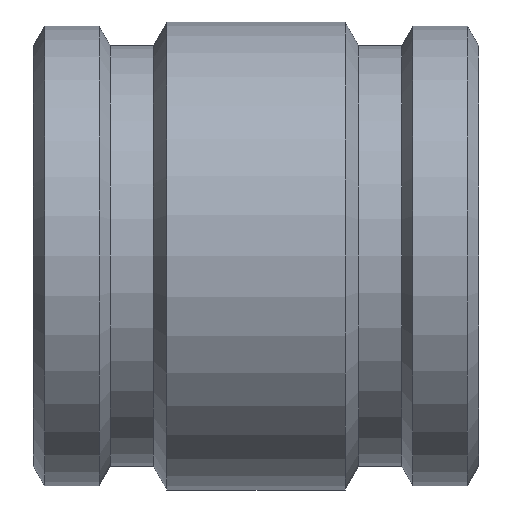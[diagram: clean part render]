
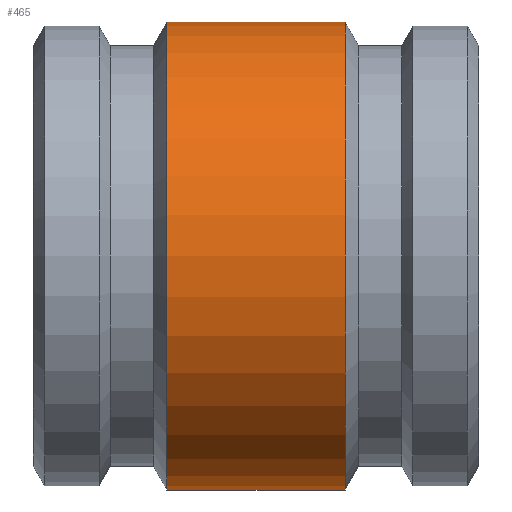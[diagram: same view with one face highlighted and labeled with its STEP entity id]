
A CAD part, front view. The second image highlights one B-rep face of the part: STEP entity #465.
In plain terms, the highlighted cylindrical face has radius 111.506 mm (diameter 223.012 mm), a full revolution.
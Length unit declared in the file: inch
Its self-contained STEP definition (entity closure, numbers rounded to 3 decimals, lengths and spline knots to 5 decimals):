
#51=CIRCLE('',#533,4.39);
#52=CIRCLE('',#534,4.39);
#53=CIRCLE('',#536,4.39);
#54=CIRCLE('',#537,4.39);
#74=CYLINDRICAL_SURFACE('',#535,4.39);
#105=FACE_OUTER_BOUND('',#139,.T.);
#139=EDGE_LOOP('',(#399,#400,#401,#402,#403,#404));
#163=LINE('',#1204,#183);
#183=VECTOR('',#661,4.39);
#231=VERTEX_POINT('',#1194);
#232=VERTEX_POINT('',#1195);
#233=VERTEX_POINT('',#1200);
#234=VERTEX_POINT('',#1201);
#290=EDGE_CURVE('',#231,#232,#51,.T.);
#291=EDGE_CURVE('',#232,#231,#52,.T.);
#293=EDGE_CURVE('',#233,#234,#53,.T.);
#294=EDGE_CURVE('',#234,#233,#54,.T.);
#295=EDGE_CURVE('',#234,#232,#163,.T.);
#399=ORIENTED_EDGE('',*,*,#293,.F.);
#400=ORIENTED_EDGE('',*,*,#294,.F.);
#401=ORIENTED_EDGE('',*,*,#295,.T.);
#402=ORIENTED_EDGE('',*,*,#291,.T.);
#403=ORIENTED_EDGE('',*,*,#290,.T.);
#404=ORIENTED_EDGE('',*,*,#295,.F.);
#465=ADVANCED_FACE('',(#105),#74,.T.);
#533=AXIS2_PLACEMENT_3D('',#1196,#650,#651);
#534=AXIS2_PLACEMENT_3D('',#1197,#652,#653);
#535=AXIS2_PLACEMENT_3D('',#1199,#655,#656);
#536=AXIS2_PLACEMENT_3D('',#1202,#657,#658);
#537=AXIS2_PLACEMENT_3D('',#1203,#659,#660);
#650=DIRECTION('center_axis',(1.,0.,0.));
#651=DIRECTION('ref_axis',(0.,0.,-1.));
#652=DIRECTION('center_axis',(1.,0.,0.));
#653=DIRECTION('ref_axis',(0.,0.,-1.));
#655=DIRECTION('center_axis',(1.,0.,0.));
#656=DIRECTION('ref_axis',(0.,1.,0.));
#657=DIRECTION('center_axis',(1.,0.,0.));
#658=DIRECTION('ref_axis',(0.,0.,-1.));
#659=DIRECTION('center_axis',(1.,0.,0.));
#660=DIRECTION('ref_axis',(0.,0.,-1.));
#661=DIRECTION('',(-1.,0.,0.));
#1194=CARTESIAN_POINT('',(-1.67,4.39,0.));
#1195=CARTESIAN_POINT('',(-1.67,-4.39,0.));
#1196=CARTESIAN_POINT('Origin',(-1.67,0.,0.));
#1197=CARTESIAN_POINT('Origin',(-1.67,0.,0.));
#1199=CARTESIAN_POINT('Origin',(0.,0.,0.));
#1200=CARTESIAN_POINT('',(1.67,4.39,0.));
#1201=CARTESIAN_POINT('',(1.67,-4.39,0.));
#1202=CARTESIAN_POINT('Origin',(1.67,0.,0.));
#1203=CARTESIAN_POINT('Origin',(1.67,0.,0.));
#1204=CARTESIAN_POINT('',(0.,-4.39,0.));
